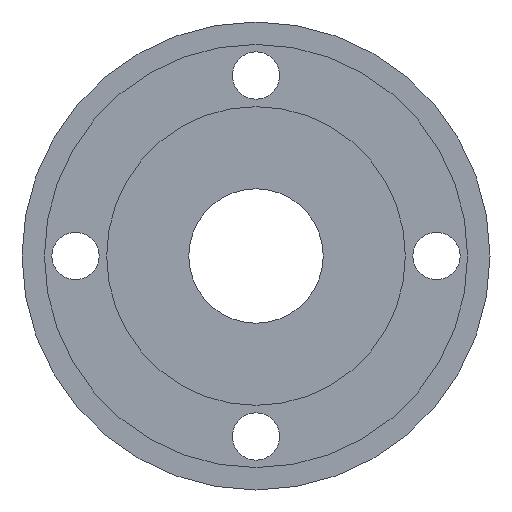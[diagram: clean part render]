
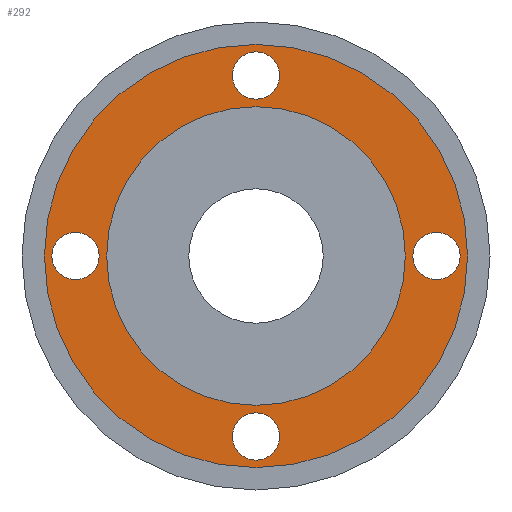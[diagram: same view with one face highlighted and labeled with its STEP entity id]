
A CAD part, front view. The second image highlights one B-rep face of the part: STEP entity #292.
In plain terms, the highlighted planar face has unit normal (0, -1, 0).
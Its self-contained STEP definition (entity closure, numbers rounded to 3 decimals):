
#30=FACE_BOUND('',#104,.T.);
#31=FACE_BOUND('',#105,.T.);
#32=FACE_BOUND('',#106,.T.);
#33=FACE_BOUND('',#107,.T.);
#34=FACE_BOUND('',#108,.T.);
#39=PLANE('',#350);
#79=FACE_OUTER_BOUND('',#103,.T.);
#103=EDGE_LOOP('',(#247));
#104=EDGE_LOOP('',(#248));
#105=EDGE_LOOP('',(#249));
#106=EDGE_LOOP('',(#250));
#107=EDGE_LOOP('',(#251));
#108=EDGE_LOOP('',(#252));
#122=CIRCLE('',#329,9.5);
#123=CIRCLE('',#331,9.5);
#124=CIRCLE('',#333,9.5);
#125=CIRCLE('',#335,9.5);
#132=CIRCLE('',#349,85.);
#133=CIRCLE('',#351,60.);
#144=VERTEX_POINT('',#473);
#145=VERTEX_POINT('',#477);
#146=VERTEX_POINT('',#481);
#147=VERTEX_POINT('',#485);
#154=VERTEX_POINT('',#511);
#155=VERTEX_POINT('',#515);
#169=EDGE_CURVE('',#144,#144,#122,.T.);
#171=EDGE_CURVE('',#145,#145,#123,.T.);
#173=EDGE_CURVE('',#146,#146,#124,.T.);
#175=EDGE_CURVE('',#147,#147,#125,.T.);
#187=EDGE_CURVE('',#154,#154,#132,.T.);
#188=EDGE_CURVE('',#155,#155,#133,.T.);
#247=ORIENTED_EDGE('',*,*,#187,.T.);
#248=ORIENTED_EDGE('',*,*,#169,.T.);
#249=ORIENTED_EDGE('',*,*,#171,.T.);
#250=ORIENTED_EDGE('',*,*,#173,.T.);
#251=ORIENTED_EDGE('',*,*,#175,.T.);
#252=ORIENTED_EDGE('',*,*,#188,.F.);
#292=ADVANCED_FACE('',(#79,#30,#31,#32,#33,#34),#39,.T.);
#329=AXIS2_PLACEMENT_3D('',#475,#387,#388);
#331=AXIS2_PLACEMENT_3D('',#479,#392,#393);
#333=AXIS2_PLACEMENT_3D('',#483,#397,#398);
#335=AXIS2_PLACEMENT_3D('',#487,#402,#403);
#349=AXIS2_PLACEMENT_3D('',#513,#435,#436);
#350=AXIS2_PLACEMENT_3D('',#514,#437,#438);
#351=AXIS2_PLACEMENT_3D('',#516,#439,#440);
#387=DIRECTION('center_axis',(0.,1.,0.));
#388=DIRECTION('ref_axis',(1.,0.,0.));
#392=DIRECTION('center_axis',(0.,1.,0.));
#393=DIRECTION('ref_axis',(1.,0.,0.));
#397=DIRECTION('center_axis',(0.,1.,0.));
#398=DIRECTION('ref_axis',(1.,0.,0.));
#402=DIRECTION('center_axis',(0.,1.,0.));
#403=DIRECTION('ref_axis',(1.,0.,0.));
#435=DIRECTION('center_axis',(0.,-1.,0.));
#436=DIRECTION('ref_axis',(1.,0.,0.));
#437=DIRECTION('center_axis',(0.,-1.,0.));
#438=DIRECTION('ref_axis',(0.,0.,-1.));
#439=DIRECTION('center_axis',(0.,-1.,0.));
#440=DIRECTION('ref_axis',(1.,0.,0.));
#473=CARTESIAN_POINT('',(63.,12.,0.));
#475=CARTESIAN_POINT('Origin',(72.5,12.,0.));
#477=CARTESIAN_POINT('',(-82.,12.,0.));
#479=CARTESIAN_POINT('Origin',(-72.5,12.,0.));
#481=CARTESIAN_POINT('',(-9.5,12.,-72.5));
#483=CARTESIAN_POINT('Origin',(0.,12.,-72.5));
#485=CARTESIAN_POINT('',(-9.5,12.,72.5));
#487=CARTESIAN_POINT('Origin',(0.,12.,72.5));
#511=CARTESIAN_POINT('',(-85.,12.,0.));
#513=CARTESIAN_POINT('Origin',(0.,12.,0.));
#514=CARTESIAN_POINT('Origin',(60.,12.,0.));
#515=CARTESIAN_POINT('',(-60.,12.,0.));
#516=CARTESIAN_POINT('Origin',(0.,12.,0.));
